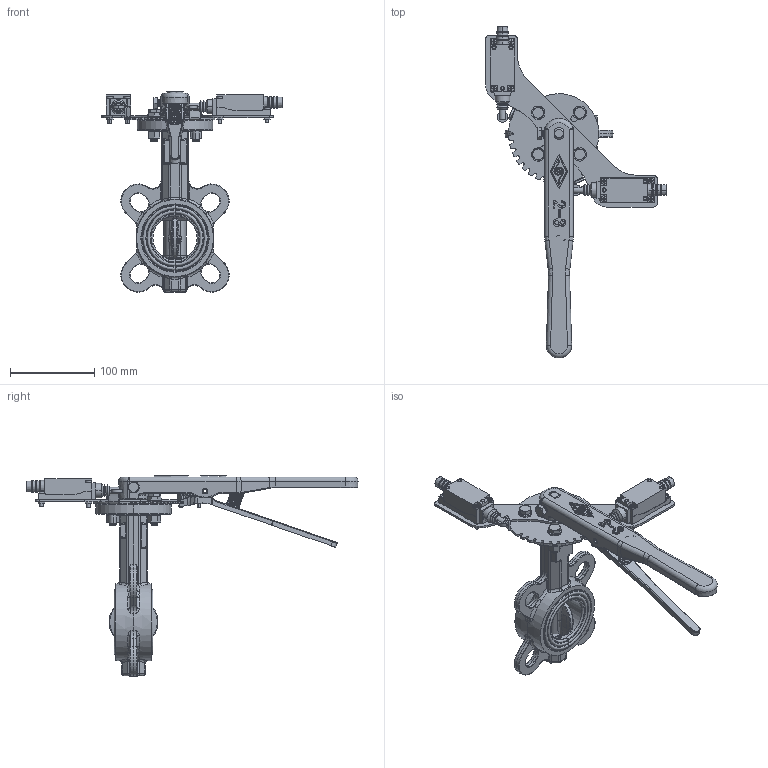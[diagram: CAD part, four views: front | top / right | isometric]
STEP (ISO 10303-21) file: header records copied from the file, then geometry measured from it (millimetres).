
FILE_DESCRIPTION(('STEP AP214'),'1');
FILE_NAME('50手柄','2023-09-21T07:05:05',('YLS'),(' '),'Spatial InterOp 3D',' ',' ');
FILE_SCHEMA(('automotive_design'));
Length unit declared in the file: millimetre
Products named in the file (82): 1; 2; 3; 4; 5; 6; 7; 8; 9; 10; 11; 12; 13; 14; 15; 16; 17; 18; 19; 20; 21; 22; 23; 24; 25; 26; 27; 28; 29; 30; 31; 32; 33; 34; 35; 36; 37; 38; 39; 40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
Bounding box: 215.42 x 394.9 x 238.5 mm (x, y, z)
Volume: 839784.2 mm3; surface area: 340750.5 mm2
Topology: 76 solids, 88 shells, 3085 faces, 7813 edges, 4963 vertices
Faces by surface type: plane 1083, cylinder 969, bspline 457, cone 293, torus 178, sphere 83, extrusion 22
Entity records: 203730 total; most frequent: CARTESIAN_POINT 66031, ORIENTED_EDGE 15250, DIRECTION 14581, STYLED_ITEM 10929, PRESENTATION_STYLE_ASSIGNMENT 10929, COLOUR_RGB 10929, CURVE_STYLE 7763, DRAUGHTING_PRE_DEFINED_CURVE_FONT 7763
